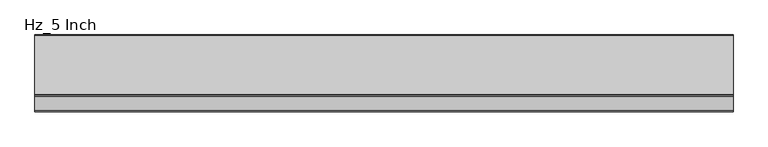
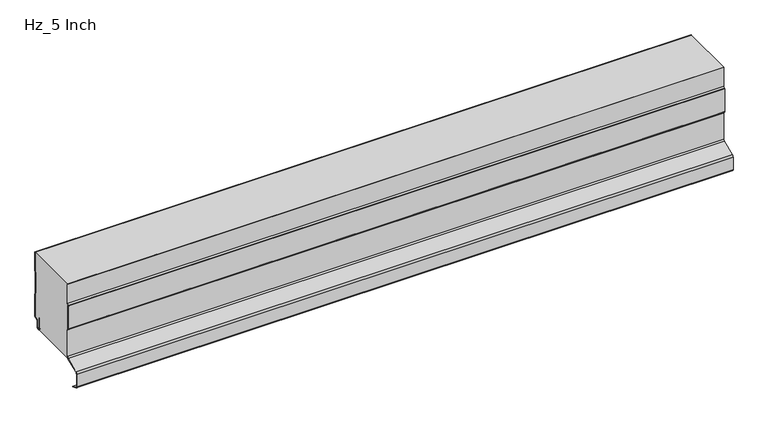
"""IFC4 building model written with IfcOpenShell, lengths in millimetres: plate geometry, AWIP_R18_CP_HR3_Hz_Roof Panel : Hz_5 Inch."""

from ifc_helpers import new_model, si_unit, point, frame, frame_2d, origin, place, context, project, spatial, polyline, circle_curve, trimmed, segment, composite_curve, outline, extrude, source, transform, mapped, element, save
from ifc_brep_helpers import plane_surface, cylinder_surface, revolved_surface, advanced_brep


def hz_5_inch_57ac582f(model_context):
    return source(origin(), model_context, "Body", "SolidModel", [
        extrude(outline(composite_curve([segment(polyline([(-0.8, 161.5426774), (-0.8, 203.2), (0.0, 203.2), (0.0, 161.5426774)]), True, "CONTINUOUS"), segment(trimmed(circle_curve(frame_2d((-3.2, 161.5426774)), 3.2), [point((0.0, 161.5426774))], [point((-0.2624164, 160.2735823))], False, "CARTESIAN"), True, "CONTINUOUS"), segment(polyline([(-0.2624164, 160.2735823), (-1.2949872, 157.8834831)]), True, "CONTINUOUS"), segment(trimmed(circle_curve(frame_2d((1.0, 156.8920026)), 2.5), [point((-1.2949872, 157.8834831))], [point((-1.5, 156.8920026))], True, "CARTESIAN"), True, "CONTINUOUS"), segment(polyline([(-1.5, 156.8920026), (-1.5, 108.5079974)]), True, "CONTINUOUS"), segment(trimmed(circle_curve(frame_2d((1.0, 108.5079974)), 2.5), [point((-1.5, 108.5079974))], [point((-1.2949872, 107.5165169))], True, "CARTESIAN"), True, "CONTINUOUS"), segment(polyline([(-1.2949872, 107.5165169), (-0.2624164, 105.1264177)]), True, "CONTINUOUS"), segment(trimmed(circle_curve(frame_2d((-3.2, 103.8573226)), 3.2), [point((-0.2624164, 105.1264177))], [point((0.0, 103.8573226))], False, "CARTESIAN"), True, "CONTINUOUS"), segment(polyline([(0.0, 103.8573226), (0.0, 54.1)]), True, "CONTINUOUS"), segment(trimmed(circle_curve(frame_2d((-3.0, 54.1)), 3.0), [point((0.0, 54.1))], [point((-3.0, 51.1))], False, "CARTESIAN"), True, "CONTINUOUS"), segment(polyline([(-3.0, 51.1), (-5.0, 51.1)]), True, "CONTINUOUS"), segment(trimmed(circle_curve(frame_2d((-5.0, 47.1)), 4.0), [point((-5.0, 51.1))], [point((-9.0, 47.1))], True, "CARTESIAN"), True, "CONTINUOUS"), segment(polyline([(-9.0, 47.1), (-9.0, 33.5841899)]), True, "CONTINUOUS"), segment(trimmed(circle_curve(frame_2d((-12.0, 33.5841899)), 3.0), [point((-9.0, 33.5841899))], [point((-12.0, 30.5841899))], False, "CARTESIAN"), True, "CONTINUOUS"), segment(polyline([(-12.0, 30.5841899), (-14.0, 30.5841899)]), True, "CONTINUOUS"), segment(trimmed(circle_curve(frame_2d((-14.0, 33.5841899)), 3.0), [point((-14.0, 30.5841899))], [point((-17.0, 33.5841899))], False, "CARTESIAN"), True, "CONTINUOUS"), segment(polyline([(-17.0, 33.5841899), (-17.0, 59.5252318), (-16.2, 59.5252318), (-16.2, 33.5841899)]), True, "CONTINUOUS"), segment(trimmed(circle_curve(frame_2d((-14.0, 33.5841899)), 2.2), [point((-16.2, 33.5841899))], [point((-14.0, 31.3841899))], True, "CARTESIAN"), True, "CONTINUOUS"), segment(polyline([(-14.0, 31.3841899), (-12.0, 31.3841899)]), True, "CONTINUOUS"), segment(trimmed(circle_curve(frame_2d((-12.0, 33.5841899)), 2.2), [point((-12.0, 31.3841899))], [point((-9.8, 33.5841899))], True, "CARTESIAN"), True, "CONTINUOUS"), segment(polyline([(-9.8, 33.5841899), (-9.8, 47.1)]), True, "CONTINUOUS"), segment(trimmed(circle_curve(frame_2d((-5.0, 47.1)), 4.8), [point((-9.8, 47.1))], [point((-5.0, 51.9))], False, "CARTESIAN"), True, "CONTINUOUS"), segment(polyline([(-5.0, 51.9), (-3.0, 51.9)]), True, "CONTINUOUS"), segment(trimmed(circle_curve(frame_2d((-3.0, 54.1)), 2.2), [point((-3.0, 51.9))], [point((-0.8, 54.1))], True, "CARTESIAN"), True, "CONTINUOUS"), segment(polyline([(-0.8, 54.1), (-0.8, 103.8573226)]), True, "CONTINUOUS"), segment(trimmed(circle_curve(frame_2d((-3.2, 103.8573226)), 2.4), [point((-0.8, 103.8573226))], [point((-0.9968123, 104.8091439))], True, "CARTESIAN"), True, "CONTINUOUS"), segment(polyline([(-0.9968123, 104.8091439), (-2.0293831, 107.1992431)]), True, "CONTINUOUS"), segment(trimmed(circle_curve(frame_2d((1.0, 108.5079974)), 3.3), [point((-2.0293831, 107.1992431))], [point((-2.3, 108.5079974))], False, "CARTESIAN"), True, "CONTINUOUS"), segment(polyline([(-2.3, 108.5079974), (-2.3, 156.8920026)]), True, "CONTINUOUS"), segment(trimmed(circle_curve(frame_2d((1.0, 156.8920026)), 3.3), [point((-2.3, 156.8920026))], [point((-2.0293831, 158.2007569))], False, "CARTESIAN"), True, "CONTINUOUS"), segment(polyline([(-2.0293831, 158.2007569), (-0.9968123, 160.5908561)]), True, "CONTINUOUS"), segment(trimmed(circle_curve(frame_2d((-3.2, 161.5426774)), 2.4), [point((-0.9968123, 160.5908561))], [point((-0.8, 161.5426774))], True, "CARTESIAN"), True, "CONTINUOUS")], self_intersect=False)), frame((-723.9042608, 0.0, 0.0), z_axis=(1.0, 0.0, 0.0), x_axis=(0.0, 1.0, 0.0)), (0.0, 0.0, 1.0), 1447.8085217),
        advanced_brep(
        [(-723.9042608, -123.4158805, 35.2427703), (-723.9042608, -123.4158805, 96.0266872), (-723.9042608, -123.6621797, 96.788077), (-723.9042608, -126.2, 100.3002117), (-723.9042608, -126.2, 154.5030919), (-723.9042608, -123.6621797, 158.0152264), (-723.9042608, -123.4158805, 158.7766163), (-723.9042608, -123.4158805, 203.2), (-723.9042608, -0.8, 203.2), (-723.9042608, -0.8, 161.5426774), (-723.9042608, -0.9968123, 160.5908561), (-723.9042608, -2.0293831, 158.2007569), (-723.9042608, -2.3, 156.8920026), (-723.9042608, -2.3, 108.5079974), (-723.9042608, -2.0293831, 107.1992431), (-723.9042608, -0.9968123, 104.8091439), (-723.9042608, -0.8, 103.8573226), (-723.9042608, -0.8, 54.1), (-723.9042608, -3.0, 51.9), (-723.9042608, -5.0, 51.9), (-723.9042608, -9.8, 47.1), (-723.9042608, -9.8, 33.5841899), (-723.9042608, -12.0, 31.3841899), (-723.9042608, -14.0, 31.3841899), (-723.9042608, -16.2, 33.5841899), (-723.9042608, -16.2, 59.5252318), (-723.9042608, -17.0, 59.5252318), (-723.9042608, -17.0, 33.5841899), (-723.9042608, -14.0, 30.5841899), (-723.9042608, -127.1298575, 30.5672433), (723.9042608, -123.4158805, 35.2427703), (723.9042608, -127.1298575, 30.5672433), (723.9042608, -14.0, 30.5672433), (723.9042608, -17.0, 33.5841899), (723.9042608, -17.0, 59.5252318), (723.9042608, -16.2, 59.5252318), (723.9042608, -16.2, 33.5841899), (723.9042608, -14.0, 31.3841899), (723.9042608, -12.0, 31.3841899), (723.9042608, -9.8, 33.5841899), (723.9042608, -9.8, 47.1), (723.9042608, -5.0, 51.9), (723.9042608, -3.0, 51.9), (723.9042608, -0.8, 54.1), (723.9042608, -0.8, 103.8573226), (723.9042608, -0.9968123, 104.8091439), (723.9042608, -2.0293831, 107.1992431), (723.9042608, -2.3, 108.5079974), (723.9042608, -2.3, 156.8920026), (723.9042608, -2.0293831, 158.2007569), (723.9042608, -0.9968123, 160.5908561), (723.9042608, -0.8, 161.5426774), (723.9042608, -0.8, 203.2), (723.9042608, -123.4158805, 203.2), (723.9042608, -123.4158805, 158.7766163), (723.9042608, -123.6621797, 158.0152264), (723.9042608, -126.2, 154.5030919), (723.9042608, -126.2, 100.3002117), (723.9042608, -123.6621797, 96.788077), (723.9042608, -123.4158805, 96.0266872)],
        [
            (0, 1),
            (1, 2, circle_curve(frame((-723.9042608, -124.7158805, 96.0266872), z_axis=(1.0, 0.0, 0.0), x_axis=(0.0, -1.0, 0.0)), 1.3)),
            (2, 3),
            (3, 4),
            (4, 5),
            (5, 6, circle_curve(frame((-723.9042608, -124.7158805, 158.7766163), z_axis=(1.0, 0.0, 0.0), x_axis=(0.0, -1.0, 0.0)), 1.3)),
            (6, 7),
            (7, 8),
            (8, 9),
            (9, 10, circle_curve(frame((-723.9042608, -3.2, 161.5426774), z_axis=(-1.0, 0.0, 0.0), x_axis=(0.0, -1.0, 0.0)), 2.4)),
            (10, 11),
            (11, 12, circle_curve(frame((-723.9042608, 1.0, 156.8920026), z_axis=(1.0, 0.0, 0.0), x_axis=(0.0, -1.0, 0.0)), 3.3)),
            (12, 13),
            (13, 14, circle_curve(frame((-723.9042608, 1.0, 108.5079974), z_axis=(1.0, 0.0, 0.0), x_axis=(0.0, -1.0, 0.0)), 3.3)),
            (14, 15),
            (15, 16, circle_curve(frame((-723.9042608, -3.2, 103.8573226), z_axis=(-1.0, 0.0, 0.0), x_axis=(0.0, -1.0, 0.0)), 2.4)),
            (16, 17),
            (17, 18, circle_curve(frame((-723.9042608, -3.0, 54.1), z_axis=(-1.0, 0.0, 0.0), x_axis=(0.0, -1.0, 0.0)), 2.2)),
            (18, 19),
            (19, 20, circle_curve(frame((-723.9042608, -5.0, 47.1), z_axis=(1.0, 0.0, 0.0), x_axis=(0.0, -1.0, 0.0)), 4.8)),
            (20, 21),
            (21, 22, circle_curve(frame((-723.9042608, -12.0, 33.5841899), z_axis=(-1.0, 0.0, 0.0), x_axis=(0.0, -1.0, 0.0)), 2.2)),
            (22, 23),
            (23, 24, circle_curve(frame((-723.9042608, -14.0, 33.5841899), z_axis=(-1.0, 0.0, 0.0), x_axis=(0.0, -1.0, 0.0)), 2.2)),
            (24, 25),
            (25, 26),
            (26, 27),
            (27, 28, circle_curve(frame((-723.9042608, -14.0, 33.5841899), z_axis=(1.0, 0.0, 0.0), x_axis=(0.0, -1.0, 0.0)), 3.0)),
            (28, 29),
            (29, 0, circle_curve(frame((-723.9042608, -128.2158804, 35.2427703), z_axis=(1.0, 0.0, 0.0), x_axis=(0.0, -1.0, 0.0)), 4.7999999)),
            (30, 31, circle_curve(frame((723.9042608, -128.2158804, 35.2427703), z_axis=(-1.0, 0.0, 0.0), x_axis=(0.0, -1.0, 0.0)), 4.7999999)),
            (31, 32),
            (32, 33, circle_curve(frame((723.9042608, -14.0, 33.5841899), z_axis=(-1.0, 0.0, 0.0), x_axis=(0.0, -1.0, 0.0)), 3.0)),
            (33, 34),
            (34, 35),
            (35, 36),
            (36, 37, circle_curve(frame((723.9042608, -14.0, 33.5841899), z_axis=(1.0, 0.0, 0.0), x_axis=(0.0, -1.0, 0.0)), 2.2)),
            (37, 38),
            (38, 39, circle_curve(frame((723.9042608, -12.0, 33.5841899), z_axis=(1.0, 0.0, 0.0), x_axis=(0.0, -1.0, 0.0)), 2.2)),
            (39, 40),
            (40, 41, circle_curve(frame((723.9042608, -5.0, 47.1), z_axis=(-1.0, 0.0, 0.0), x_axis=(0.0, -1.0, 0.0)), 4.8)),
            (41, 42),
            (42, 43, circle_curve(frame((723.9042608, -3.0, 54.1), z_axis=(1.0, 0.0, 0.0), x_axis=(0.0, -1.0, 0.0)), 2.2)),
            (43, 44),
            (44, 45, circle_curve(frame((723.9042608, -3.2, 103.8573226), z_axis=(1.0, 0.0, 0.0), x_axis=(0.0, -1.0, 0.0)), 2.4)),
            (45, 46),
            (46, 47, circle_curve(frame((723.9042608, 1.0, 108.5079974), z_axis=(-1.0, 0.0, 0.0), x_axis=(0.0, -1.0, 0.0)), 3.3)),
            (47, 48),
            (48, 49, circle_curve(frame((723.9042608, 1.0, 156.8920026), z_axis=(-1.0, 0.0, 0.0), x_axis=(0.0, -1.0, 0.0)), 3.3)),
            (49, 50),
            (50, 51, circle_curve(frame((723.9042608, -3.2, 161.5426774), z_axis=(1.0, 0.0, 0.0), x_axis=(0.0, -1.0, 0.0)), 2.4)),
            (51, 52),
            (52, 53),
            (53, 54),
            (54, 55, circle_curve(frame((723.9042608, -124.7158805, 158.7766163), z_axis=(-1.0, 0.0, 0.0), x_axis=(0.0, -1.0, 0.0)), 1.3)),
            (55, 56),
            (56, 57),
            (57, 58),
            (58, 59, circle_curve(frame((723.9042608, -124.7158805, 96.0266872), z_axis=(-1.0, 0.0, 0.0), x_axis=(0.0, -1.0, 0.0)), 1.3)),
            (59, 30),
            (7, 53),
            (52, 8),
            (29, 31),
            (30, 0),
            (28, 32),
            (27, 33),
            (26, 34),
            (25, 35),
            (24, 36),
            (23, 37),
            (22, 38),
            (21, 39),
            (20, 40),
            (19, 41),
            (18, 42),
            (17, 43),
            (16, 44),
            (15, 45),
            (14, 46),
            (13, 47),
            (12, 48),
            (11, 49),
            (10, 50),
            (9, 51),
            (6, 54),
            (5, 55),
            (4, 56),
            (3, 57),
            (2, 58),
            (1, 59),
        ],
        [
            plane_surface(frame((-723.9042608, -0.8, 508.0), z_axis=(-1.0, 0.0, 0.0), x_axis=(0.0, -1.0, 0.0))),
            plane_surface(frame((723.9042608, -0.8, 508.0), z_axis=(1.0, 0.0, 0.0), x_axis=(0.0, -1.0, 0.0))),
            plane_surface(frame((723.9042608, 5.0, 203.2), z_axis=(0.0, 0.0, 1.0), x_axis=(-1.0, 0.0, 0.0))),
            revolved_surface(polyline([(723.9042608, -133.0158803, 35.2427703), (-723.9042608, -133.0158803, 35.2427703)]), (-723.9042608, -128.2158804, 35.2427703), (1.0, 0.0, 0.0)),
            plane_surface(frame((-723.9042608, -127.1298575, 30.5672433), z_axis=(0.0, 0.0, -1.0), x_axis=(1.0, 0.0, 0.0))),
            revolved_surface(polyline([(723.9042608, -17.0, 33.5841899), (-723.9042608, -17.0, 33.5841899)]), (-723.9042608, -14.0, 33.5841899), (1.0, 0.0, 0.0)),
            plane_surface(frame((-723.9042608, -17.0, 33.5841899), z_axis=(0.0, 1.0, 0.0), x_axis=(1.0, 0.0, 0.0))),
            plane_surface(frame((-723.9042608, -17.0, 59.5252318), z_axis=(0.0, 0.0, -1.0), x_axis=(1.0, 0.0, 0.0))),
            plane_surface(frame((-723.9042608, -16.2, 59.5252318), z_axis=(0.0, -1.0, 0.0), x_axis=(1.0, 0.0, 0.0))),
            cylinder_surface(frame((-723.9042608, -14.0, 33.5841899), z_axis=(-1.0, 0.0, 0.0), x_axis=(0.0, -1.0, 0.0)), 2.2),
            plane_surface(frame((-723.9042608, -14.0, 31.3841899), z_axis=(0.0, 0.0, -1.0), x_axis=(1.0, 0.0, 0.0))),
            cylinder_surface(frame((-723.9042608, -12.0, 33.5841899), z_axis=(-1.0, 0.0, 0.0), x_axis=(0.0, -1.0, 0.0)), 2.2),
            plane_surface(frame((-723.9042608, -9.8, 33.5841899), z_axis=(0.0, 1.0, 0.0), x_axis=(1.0, 0.0, 0.0))),
            revolved_surface(polyline([(723.9042608, -9.8, 47.1), (-723.9042608, -9.8, 47.1)]), (-723.9042608, -5.0, 47.1), (1.0, 0.0, 0.0)),
            plane_surface(frame((-723.9042608, -5.0, 51.9), z_axis=(0.0, 0.0, -1.0), x_axis=(1.0, 0.0, 0.0))),
            cylinder_surface(frame((-723.9042608, -3.0, 54.1), z_axis=(-1.0, 0.0, 0.0), x_axis=(0.0, -1.0, 0.0)), 2.2),
            plane_surface(frame((-723.9042608, -0.8, 54.1), z_axis=(0.0, 1.0, 0.0), x_axis=(1.0, 0.0, 0.0))),
            cylinder_surface(frame((-723.9042608, -3.2, 103.8573226), z_axis=(-1.0, 0.0, 0.0), x_axis=(0.0, -1.0, 0.0)), 2.4),
            plane_surface(frame((-723.9042608, -0.9968123, 104.8091439), z_axis=(0.0, 0.9179948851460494, 0.3965922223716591), x_axis=(1.0, 0.0, 0.0))),
            revolved_surface(polyline([(723.9042608, -2.3, 108.5079974), (-723.9042608, -2.3, 108.5079974)]), (-723.9042608, 1.0, 108.5079974), (1.0, 0.0, 0.0)),
            plane_surface(frame((-723.9042608, -2.3, 108.5079974), z_axis=(0.0, 1.0, 0.0), x_axis=(1.0, 0.0, 0.0))),
            revolved_surface(polyline([(723.9042608, -2.3, 156.8920026), (-723.9042608, -2.3, 156.8920026)]), (-723.9042608, 1.0, 156.8920026), (1.0, 0.0, 0.0)),
            plane_surface(frame((-723.9042608, -2.0293831, 158.2007569), z_axis=(0.0, 0.9179948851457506, -0.39659222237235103), x_axis=(1.0, 0.0, 0.0))),
            cylinder_surface(frame((-723.9042608, -3.2, 161.5426774), z_axis=(-1.0, 0.0, 0.0), x_axis=(0.0, -1.0, 0.0)), 2.4),
            plane_surface(frame((-723.9042608, -0.8, 161.5426774), z_axis=(0.0, 1.0, 0.0), x_axis=(1.0, 0.0, 0.0))),
            plane_surface(frame((-723.9042608, -123.4158805, 219.2727425), z_axis=(0.0, -1.0, 0.0), x_axis=(1.0, 0.0, 0.0))),
            revolved_surface(polyline([(723.9042608, -126.0158805, 158.7766163), (-723.9042608, -126.0158805, 158.7766163)]), (-723.9042608, -124.7158805, 158.7766163), (1.0, 0.0, 0.0)),
            plane_surface(frame((-723.9042608, -123.6621797, 158.0152264), z_axis=(0.0, -0.8105391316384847, 0.585684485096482), x_axis=(1.0, 0.0, 0.0))),
            plane_surface(frame((-723.9042608, -126.2, 154.5030919), z_axis=(0.0, -1.0, 0.0), x_axis=(1.0, 0.0, 0.0))),
            plane_surface(frame((-723.9042608, -126.2, 100.3002117), z_axis=(0.0, -0.8105391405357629, -0.5856844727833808), x_axis=(1.0, 0.0, 0.0))),
            revolved_surface(polyline([(723.9042608, -126.0158805, 96.0266872), (-723.9042608, -126.0158805, 96.0266872)]), (-723.9042608, -124.7158805, 96.0266872), (1.0, 0.0, 0.0)),
            plane_surface(frame((-723.9042608, -123.4158805, 96.0266872), z_axis=(0.0, -1.0, 0.0), x_axis=(1.0, 0.0, 0.0))),
        ],
        [
            (0, [[1, 2, 3, 4, 5, 6, 7, 8, 9, 10, 11, 12, 13, 14, 15, 16, 17, 18, 19, 20, 21, 22, 23, 24, 25, 26, 27, 28, 29, 30]]),
            (1, [[31, 32, 33, 34, 35, 36, 37, 38, 39, 40, 41, 42, 43, 44, 45, 46, 47, 48, 49, 50, 51, 52, 53, 54, 55, 56, 57, 58, 59, 60]]),
            (2, [[61, -53, 62, -8]]),
            (3, [[63, -31, 64, -30]]),
            (4, [[65, -32, -63, -29]]),
            (5, [[66, -33, -65, -28]]),
            (6, [[67, -34, -66, -27]]),
            (7, [[68, -35, -67, -26]]),
            (8, [[69, -36, -68, -25]]),
            (9, [[70, -37, -69, -24]]),
            (10, [[71, -38, -70, -23]]),
            (11, [[72, -39, -71, -22]]),
            (12, [[73, -40, -72, -21]]),
            (13, [[74, -41, -73, -20]]),
            (14, [[75, -42, -74, -19]]),
            (15, [[76, -43, -75, -18]]),
            (16, [[77, -44, -76, -17]]),
            (17, [[78, -45, -77, -16]]),
            (18, [[79, -46, -78, -15]]),
            (19, [[80, -47, -79, -14]]),
            (20, [[81, -48, -80, -13]]),
            (21, [[82, -49, -81, -12]]),
            (22, [[83, -50, -82, -11]]),
            (23, [[84, -51, -83, -10]]),
            (24, [[-9, -62, -52, -84]]),
            (25, [[-54, -61, -7, 85]]),
            (26, [[86, -55, -85, -6]]),
            (27, [[87, -56, -86, -5]]),
            (28, [[88, -57, -87, -4]]),
            (29, [[89, -58, -88, -3]]),
            (30, [[90, -59, -89, -2]]),
            (31, [[-64, -60, -90, -1]]),
        ],
    ),
        extrude(outline(composite_curve([segment(trimmed(circle_curve(frame_2d((-124.7158802, 96.0266872)), 1.3), [point((-123.6621793, 96.788077))], [point((-123.4158802, 96.0266872))], False, "CARTESIAN"), True, "CONTINUOUS"), segment(polyline([(-123.4158802, 96.0266872), (-123.4158802, 35.2427703)]), True, "CONTINUOUS"), segment(trimmed(circle_curve(frame_2d((-128.2158801, 35.2427703)), 4.7999999), [point((-123.4158802, 35.2427703))], [point((-126.340401, 30.8243343))], False, "CARTESIAN"), True, "CONTINUOUS"), segment(polyline([(-126.340401, 30.8243343), (-156.3569246, 18.0833189)]), True, "CONTINUOUS"), segment(trimmed(circle_curve(frame_2d((-154.7158804, 14.2171873)), 4.2), [point((-156.3569246, 18.0833189))], [point((-158.9158804, 14.2171873))], True, "CARTESIAN"), True, "CONTINUOUS"), segment(polyline([(-158.9158804, 14.2171873), (-158.9158804, -14.1639048)]), True, "CONTINUOUS"), segment(trimmed(circle_curve(frame_2d((-154.7158804, -14.1639048)), 4.2), [point((-158.9158804, -14.1639048))], [point((-156.3569214, -18.0300378))], True, "CARTESIAN"), True, "CONTINUOUS"), segment(polyline([(-156.3569214, -18.0300378), (-143.754669, -23.3792623), (-144.0672482, -24.1156686), (-156.6695006, -18.7664441)]), True, "CONTINUOUS"), segment(trimmed(circle_curve(frame_2d((-154.7158804, -14.1639048)), 5.0), [point((-156.6695006, -18.7664441))], [point((-159.7158804, -14.1639048))], False, "CARTESIAN"), True, "CONTINUOUS"), segment(polyline([(-159.7158804, -14.1639048), (-159.7158804, 14.2171873)]), True, "CONTINUOUS"), segment(trimmed(circle_curve(frame_2d((-154.7158804, 14.2171873)), 5.0), [point((-159.7158804, 14.2171873))], [point((-156.6695045, 18.8197249))], False, "CARTESIAN"), True, "CONTINUOUS"), segment(polyline([(-156.6695045, 18.8197249), (-126.6529809, 31.5607405)]), True, "CONTINUOUS"), segment(trimmed(circle_curve(frame_2d((-128.2158801, 35.2427703)), 3.9999997), [point((-126.6529809, 31.5607405))], [point((-124.2158804, 35.2427703))], True, "CARTESIAN"), True, "CONTINUOUS"), segment(polyline([(-124.2158804, 35.2427703), (-124.2158804, 96.1884306), (-126.7158081, 99.6481249)]), True, "CONTINUOUS"), segment(trimmed(circle_curve(frame_2d((-125.4999994, 100.5266516)), 1.4999999), [point((-126.7158081, 99.6481249))], [point((-126.9999994, 100.5266516))], False, "CARTESIAN"), True, "CONTINUOUS"), segment(polyline([(-126.9999994, 100.5266516), (-126.9999994, 154.2756802)]), True, "CONTINUOUS"), segment(trimmed(circle_curve(frame_2d((-125.4999997, 154.2766516)), 1.5), [point((-126.9999994, 154.2756802))], [point((-126.7158084, 155.1551783))], False, "CARTESIAN"), True, "CONTINUOUS"), segment(polyline([(-126.7158084, 155.1551783), (-124.2158803, 158.6148732), (-124.2158803, 203.2), (-123.4158802, 203.2), (-123.4158802, 158.7766163)]), True, "CONTINUOUS"), segment(trimmed(circle_curve(frame_2d((-124.7158802, 158.7766163)), 1.3), [point((-123.4158802, 158.7766163))], [point((-123.6621793, 158.0152264))], False, "CARTESIAN"), True, "CONTINUOUS"), segment(polyline([(-123.6621793, 158.0152264), (-126.1999997, 154.5030919), (-126.1999997, 100.3002117), (-123.6621793, 96.788077)]), True, "CONTINUOUS")], self_intersect=False)), frame((-723.9042608, 0.0, 0.0), z_axis=(1.0, 0.0, 0.0), x_axis=(0.0, 1.0, 0.0)), (0.0, 0.0, 1.0), 1447.8085217),
    ])


if __name__ == "__main__":
    model = new_model("IFC4")
    model_context = context("Model", 3, world=origin())
    ifc_project = project(units=[si_unit("LENGTHUNIT", "METRE", prefix="MILLI")], contexts=[model_context])
    site = spatial("IfcSite", under=ifc_project)
    building = spatial("IfcBuilding", under=site)
    placement = place(None, origin())
    hz_5_inch_shape = hz_5_inch_57ac582f(model_context)
    element("IfcPlate", 1, ObjectType="AWIP_R18_CP_HR3_Hz_Roof Panel : Hz_5 Inch", at=placement, inside=building, context=model_context, shape_type="MappedRepresentation", body=[
        mapped(hz_5_inch_shape, transform((0.0, 0.0, 0.0), x_axis=(1.0, 0.0, 0.0), y_axis=(0.0, 1.0, 0.0), z_axis=(0.0, 0.0, 1.0))),
    ])
    save(model, "model.ifc")
